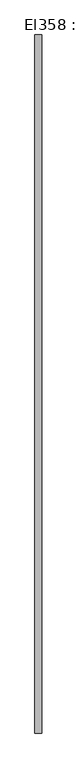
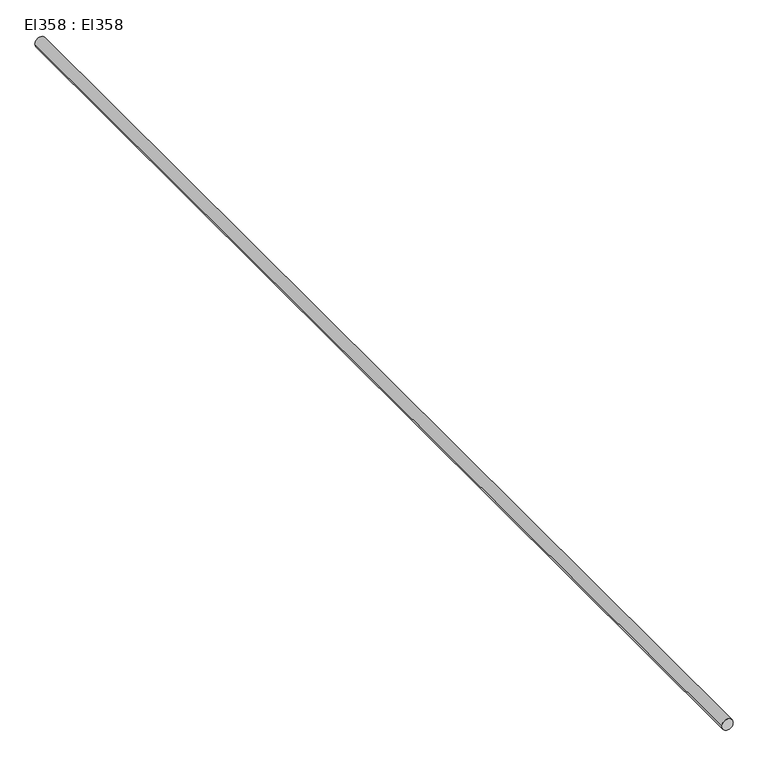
"""IFC4 building model written with IfcOpenShell, lengths in millimetres: cable carrier segment geometry, El358 : El358."""

from ifc_helpers import new_model, si_unit, point, frame, frame_2d, origin, place, context, project, spatial, circle_curve, trimmed, segment, composite_curve, outline, extrude, source, transform, mapped, element, save


def el358_el358_76f8f0ab(model_context):
    return source(origin(), model_context, "Body", "SweptSolid", [
        extrude(outline(composite_curve([segment(trimmed(circle_curve(frame_2d((0.0, 23202.7)), 37.5), [point((0.0, 23165.2))], [point((0.0, 23240.2))], False, "CARTESIAN"), True, "CONTINUOUS"), segment(trimmed(circle_curve(frame_2d((0.0, 23202.7)), 37.5), [point((0.0, 23240.2))], [point((0.0, 23165.2))], False, "CARTESIAN"), True, "CONTINUOUS")], self_intersect=False)), frame((0.0, 5671.77, 0.0), z_axis=(0.0, 1.0, 0.0), x_axis=(0.0, 0.0, 1.0)), (0.0, 0.0, 1.0), 7834.97),
    ])


if __name__ == "__main__":
    model = new_model("IFC4")
    model_context = context("Model", 3, world=origin())
    ifc_project = project(units=[si_unit("LENGTHUNIT", "METRE", prefix="MILLI")], contexts=[model_context])
    site = spatial("IfcSite", under=ifc_project)
    building = spatial("IfcBuilding", under=site)
    placement = place(None, origin())
    el358_el358_shape = el358_el358_76f8f0ab(model_context)
    element("IfcCableCarrierSegment", 1, ObjectType="El358 : El358", at=placement, inside=building, context=model_context, shape_type="MappedRepresentation", body=[
        mapped(el358_el358_shape, transform((0.0, 0.0, 0.0), x_axis=(1.0, 0.0, 0.0), y_axis=(0.0, 1.0, 0.0), z_axis=(0.0, 0.0, 1.0))),
    ])
    save(model, "model.ifc")
